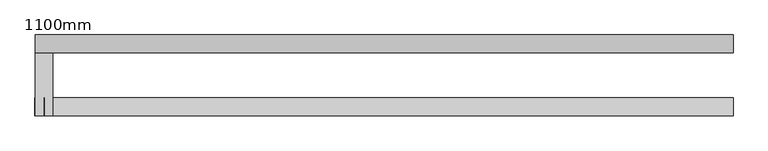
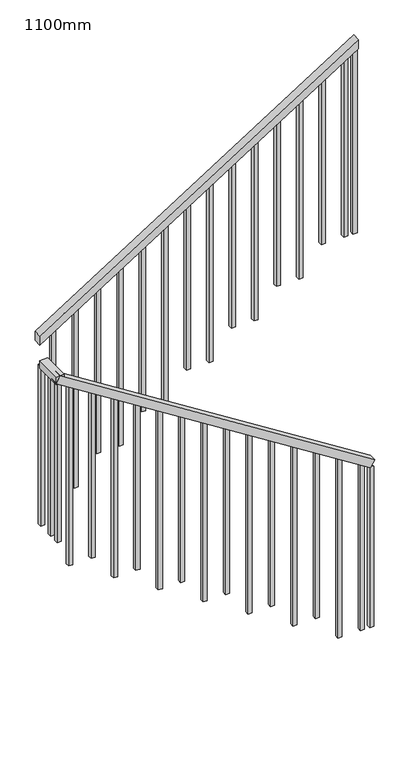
"""IFC4 building model written with IfcOpenShell, lengths in millimetres: railing geometry, 1100mm."""

from ifc_helpers import new_model, si_unit, frame, origin, place, context, project, spatial, polyline, outline, extrude, source, transform, mapped, element, save


def railing_1100mm_33f3b1c9(model_context):
    return source(origin(), model_context, "Body", "SweptSolid", [
        extrude(outline(polyline([(0.0, -50.0), (0.0, 0.0), (2314.699618, 0.0), (2314.699618, -50.0), (0.0, -50.0)])), frame((14312.383029, 8411.1365306, -1508.5881232), z_axis=(0.5348490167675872, 0.0, 0.8449476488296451), x_axis=(-0.8449476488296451, 0.0, 0.5348490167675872)), (0.0, 0.0, 1.0), 50.0),
        extrude(outline(polyline([(12407.9254798, 8411.1365306), (12357.9254798, 8411.1365306), (12357.9254798, 8589.7365306), (12407.9254798, 8589.7365306), (12407.9254798, 8411.1365306)])), frame((0.0, 0.0, -278.3259259), z_axis=(0.0, 0.0, 1.0), x_axis=(1.0, 0.0, 0.0)), (0.0, 0.0, 1.0), 50.0),
        extrude(outline(polyline([(-67.5447811, 12357.9254798), (-126.7200449, 12357.9254798), (1127.3728844, 14339.1254798), (1186.5481481, 14339.1254798), (-67.5447811, 12357.9254798)])), frame((0.0, 8589.7365306, 0.0), z_axis=(0.0, 1.0, 0.0), x_axis=(0.0, 0.0, 1.0)), (0.0, 0.0, 1.0), 50.0),
        extrude(outline(polyline([(1084.1676768, 14256.3754798), (-90.3111111, 14256.3754798), (-90.3111111, 14281.3754798), (1099.9925926, 14281.3754798), (1084.1676768, 14256.3754798)])), frame((0.0, 8602.2365306, 0.0), z_axis=(0.0, 1.0, 0.0), x_axis=(0.0, 0.0, 1.0)), (0.0, 0.0, 1.0), 25.0),
        extrude(outline(polyline([(995.6128221, 14116.6754798), (-90.3111111, 14116.6754798), (-90.3111111, 14141.6754798), (1011.3827664, 14141.6754798), (995.6128221, 14116.6754798)])), frame((0.0, 8602.2365306, 0.0), z_axis=(0.0, 1.0, 0.0), x_axis=(0.0, 0.0, 1.0)), (0.0, 0.0, 1.0), 25.0),
        extrude(outline(polyline([(907.3084175, 13976.9754798), (-267.1703704, 13976.9754798), (-267.1703704, 14001.9754798), (923.1333333, 14001.9754798), (907.3084175, 13976.9754798)])), frame((0.0, 8602.2365306, 0.0), z_axis=(0.0, 1.0, 0.0), x_axis=(0.0, 0.0, 1.0)), (0.0, 0.0, 1.0), 25.0),
        extrude(outline(polyline([(818.7535628, 13837.2754798), (-267.1703704, 13837.2754798), (-267.1703704, 13862.2754798), (834.5235072, 13862.2754798), (818.7535628, 13837.2754798)])), frame((0.0, 8602.2365306, 0.0), z_axis=(0.0, 1.0, 0.0), x_axis=(0.0, 0.0, 1.0)), (0.0, 0.0, 1.0), 25.0),
        extrude(outline(polyline([(730.4491582, 13697.5754798), (-444.0296296, 13697.5754798), (-444.0296296, 13722.5754798), (746.2740741, 13722.5754798), (730.4491582, 13697.5754798)])), frame((0.0, 8602.2365306, 0.0), z_axis=(0.0, 1.0, 0.0), x_axis=(0.0, 0.0, 1.0)), (0.0, 0.0, 1.0), 25.0),
        extrude(outline(polyline([(641.8943036, 13557.8754798), (-444.0296296, 13557.8754798), (-444.0296296, 13582.8754798), (657.6642479, 13582.8754798), (641.8943036, 13557.8754798)])), frame((0.0, 8602.2365306, 0.0), z_axis=(0.0, 1.0, 0.0), x_axis=(0.0, 0.0, 1.0)), (0.0, 0.0, 1.0), 25.0),
        extrude(outline(polyline([(553.589899, 13418.1754798), (-620.8888889, 13418.1754798), (-620.8888889, 13443.1754798), (569.4148148, 13443.1754798), (553.589899, 13418.1754798)])), frame((0.0, 8602.2365306, 0.0), z_axis=(0.0, 1.0, 0.0), x_axis=(0.0, 0.0, 1.0)), (0.0, 0.0, 1.0), 25.0),
        extrude(outline(polyline([(465.0350443, 13278.4754798), (-620.8888889, 13278.4754798), (-620.8888889, 13303.4754798), (480.8049887, 13303.4754798), (465.0350443, 13278.4754798)])), frame((0.0, 8602.2365306, 0.0), z_axis=(0.0, 1.0, 0.0), x_axis=(0.0, 0.0, 1.0)), (0.0, 0.0, 1.0), 25.0),
        extrude(outline(polyline([(376.7306397, 13138.7754798), (-797.7481481, 13138.7754798), (-797.7481481, 13163.7754798), (392.5555556, 13163.7754798), (376.7306397, 13138.7754798)])), frame((0.0, 8602.2365306, 0.0), z_axis=(0.0, 1.0, 0.0), x_axis=(0.0, 0.0, 1.0)), (0.0, 0.0, 1.0), 25.0),
        extrude(outline(polyline([(288.1757851, 12999.0754798), (-797.7481481, 12999.0754798), (-797.7481481, 13024.0754798), (303.9457294, 13024.0754798), (288.1757851, 12999.0754798)])), frame((0.0, 8602.2365306, 0.0), z_axis=(0.0, 1.0, 0.0), x_axis=(0.0, 0.0, 1.0)), (0.0, 0.0, 1.0), 25.0),
        extrude(outline(polyline([(199.8713805, 12859.3754798), (-974.6074074, 12859.3754798), (-974.6074074, 12884.3754798), (215.6962963, 12884.3754798), (199.8713805, 12859.3754798)])), frame((0.0, 8602.2365306, 0.0), z_axis=(0.0, 1.0, 0.0), x_axis=(0.0, 0.0, 1.0)), (0.0, 0.0, 1.0), 25.0),
        extrude(outline(polyline([(111.3165258, 12719.6754798), (-974.6074074, 12719.6754798), (-974.6074074, 12744.6754798), (127.0864701, 12744.6754798), (111.3165258, 12719.6754798)])), frame((0.0, 8602.2365306, 0.0), z_axis=(0.0, 1.0, 0.0), x_axis=(0.0, 0.0, 1.0)), (0.0, 0.0, 1.0), 25.0),
        extrude(outline(polyline([(23.0121212, 12579.9754798), (-1151.4666667, 12579.9754798), (-1151.4666667, 12604.9754798), (38.837037, 12604.9754798), (23.0121212, 12579.9754798)])), frame((0.0, 8602.2365306, 0.0), z_axis=(0.0, 1.0, 0.0), x_axis=(0.0, 0.0, 1.0)), (0.0, 0.0, 1.0), 25.0),
        extrude(outline(polyline([(-65.5427335, 12440.2754798), (-1151.4666667, 12440.2754798), (-1151.4666667, 12465.2754798), (-49.7727891, 12465.2754798), (-65.5427335, 12440.2754798)])), frame((0.0, 8602.2365306, 0.0), z_axis=(0.0, 1.0, 0.0), x_axis=(0.0, 0.0, 1.0)), (0.0, 0.0, 1.0), 25.0),
        extrude(outline(polyline([(12395.4254798, 8493.4865306), (12370.4254798, 8493.4865306), (12370.4254798, 8518.4865306), (12395.4254798, 8518.4865306), (12395.4254798, 8493.4865306)])), frame((0.0, 0.0, -1328.3259259), z_axis=(0.0, 0.0, 1.0), x_axis=(1.0, 0.0, 0.0)), (0.0, 0.0, 1.0), 1050.0),
        extrude(outline(polyline([(-1505.1851852, 12465.6754798), (-330.4531987, 12465.6754798), (-314.6282828, 12440.6754798), (-1505.1851852, 12440.6754798), (-1505.1851852, 12465.6754798)])), frame((0.0, 8423.6365306, 0.0), z_axis=(0.0, 1.0, 0.0), x_axis=(0.0, 0.0, 1.0)), (0.0, 0.0, 1.0), 25.0),
        extrude(outline(polyline([(-1505.1851852, 12605.3754798), (-419.0089329, 12605.3754798), (-403.2389885, 12580.3754798), (-1505.1851852, 12580.3754798), (-1505.1851852, 12605.3754798)])), frame((0.0, 8423.6365306, 0.0), z_axis=(0.0, 1.0, 0.0), x_axis=(0.0, 0.0, 1.0)), (0.0, 0.0, 1.0), 25.0),
        extrude(outline(polyline([(-1682.0444444, 12745.0754798), (-507.3124579, 12745.0754798), (-491.4875421, 12720.0754798), (-1682.0444444, 12720.0754798), (-1682.0444444, 12745.0754798)])), frame((0.0, 8423.6365306, 0.0), z_axis=(0.0, 1.0, 0.0), x_axis=(0.0, 0.0, 1.0)), (0.0, 0.0, 1.0), 25.0),
        extrude(outline(polyline([(-1682.0444444, 12884.7754798), (-595.8681921, 12884.7754798), (-580.0982478, 12859.7754798), (-1682.0444444, 12859.7754798), (-1682.0444444, 12884.7754798)])), frame((0.0, 8423.6365306, 0.0), z_axis=(0.0, 1.0, 0.0), x_axis=(0.0, 0.0, 1.0)), (0.0, 0.0, 1.0), 25.0),
        extrude(outline(polyline([(-1858.9037037, 13024.4754798), (-684.1717172, 13024.4754798), (-668.3468013, 12999.4754798), (-1858.9037037, 12999.4754798), (-1858.9037037, 13024.4754798)])), frame((0.0, 8423.6365306, 0.0), z_axis=(0.0, 1.0, 0.0), x_axis=(0.0, 0.0, 1.0)), (0.0, 0.0, 1.0), 25.0),
        extrude(outline(polyline([(-1858.9037037, 13164.1754798), (-772.7274514, 13164.1754798), (-756.957507, 13139.1754798), (-1858.9037037, 13139.1754798), (-1858.9037037, 13164.1754798)])), frame((0.0, 8423.6365306, 0.0), z_axis=(0.0, 1.0, 0.0), x_axis=(0.0, 0.0, 1.0)), (0.0, 0.0, 1.0), 25.0),
        extrude(outline(polyline([(-2035.762963, 13303.8754798), (-861.0309764, 13303.8754798), (-845.2060606, 13278.8754798), (-2035.762963, 13278.8754798), (-2035.762963, 13303.8754798)])), frame((0.0, 8423.6365306, 0.0), z_axis=(0.0, 1.0, 0.0), x_axis=(0.0, 0.0, 1.0)), (0.0, 0.0, 1.0), 25.0),
        extrude(outline(polyline([(-2035.762963, 13443.5754798), (-949.5867106, 13443.5754798), (-933.8167663, 13418.5754798), (-2035.762963, 13418.5754798), (-2035.762963, 13443.5754798)])), frame((0.0, 8423.6365306, 0.0), z_axis=(0.0, 1.0, 0.0), x_axis=(0.0, 0.0, 1.0)), (0.0, 0.0, 1.0), 25.0),
        extrude(outline(polyline([(-2212.6222222, 13583.2754798), (-1037.8902357, 13583.2754798), (-1022.0653199, 13558.2754798), (-2212.6222222, 13558.2754798), (-2212.6222222, 13583.2754798)])), frame((0.0, 8423.6365306, 0.0), z_axis=(0.0, 1.0, 0.0), x_axis=(0.0, 0.0, 1.0)), (0.0, 0.0, 1.0), 25.0),
        extrude(outline(polyline([(-2212.6222222, 13722.9754798), (-1126.4459699, 13722.9754798), (-1110.6760256, 13697.9754798), (-2212.6222222, 13697.9754798), (-2212.6222222, 13722.9754798)])), frame((0.0, 8423.6365306, 0.0), z_axis=(0.0, 1.0, 0.0), x_axis=(0.0, 0.0, 1.0)), (0.0, 0.0, 1.0), 25.0),
        extrude(outline(polyline([(-2389.4814815, 13862.6754798), (-1214.7494949, 13862.6754798), (-1198.9245791, 13837.6754798), (-2389.4814815, 13837.6754798), (-2389.4814815, 13862.6754798)])), frame((0.0, 8423.6365306, 0.0), z_axis=(0.0, 1.0, 0.0), x_axis=(0.0, 0.0, 1.0)), (0.0, 0.0, 1.0), 25.0),
        extrude(outline(polyline([(-2389.4814815, 14002.3754798), (-1303.3052292, 14002.3754798), (-1287.5352848, 13977.3754798), (-2389.4814815, 13977.3754798), (-2389.4814815, 14002.3754798)])), frame((0.0, 8423.6365306, 0.0), z_axis=(0.0, 1.0, 0.0), x_axis=(0.0, 0.0, 1.0)), (0.0, 0.0, 1.0), 25.0),
        extrude(outline(polyline([(-2566.3407407, 14142.0754798), (-1391.6087542, 14142.0754798), (-1375.7838384, 14117.0754798), (-2566.3407407, 14117.0754798), (-2566.3407407, 14142.0754798)])), frame((0.0, 8423.6365306, 0.0), z_axis=(0.0, 1.0, 0.0), x_axis=(0.0, 0.0, 1.0)), (0.0, 0.0, 1.0), 25.0),
        extrude(outline(polyline([(-2566.3407407, 14281.7754798), (-1480.1644884, 14281.7754798), (-1464.3945441, 14256.7754798), (-2566.3407407, 14256.7754798), (-2566.3407407, 14281.7754798)])), frame((0.0, 8423.6365306, 0.0), z_axis=(0.0, 1.0, 0.0), x_axis=(0.0, 0.0, 1.0)), (0.0, 0.0, 1.0), 25.0),
        extrude(outline(polyline([(12395.4254798, 8602.2365306), (12370.4254798, 8602.2365306), (12370.4254798, 8627.2365306), (12395.4254798, 8627.2365306), (12395.4254798, 8602.2365306)])), frame((0.0, 0.0, -1328.3259259), z_axis=(0.0, 0.0, 1.0), x_axis=(1.0, 0.0, 0.0)), (0.0, 0.0, 1.0), 1050.0),
        extrude(outline(polyline([(12395.4254798, 8448.6365306), (12395.4254798, 8423.6365306), (12370.4254798, 8423.6365306), (12370.4254798, 8448.6365306), (12395.4254798, 8448.6365306)])), frame((0.0, 0.0, -1328.3259259), z_axis=(0.0, 0.0, 1.0), x_axis=(1.0, 0.0, 0.0)), (0.0, 0.0, 1.0), 1050.0),
        extrude(outline(polyline([(1120.7232323, 14314.1254798), (-90.3111111, 14314.1254798), (-90.3111111, 14339.1254798), (1136.5481481, 14339.1254798), (1120.7232323, 14314.1254798)])), frame((0.0, 8602.2365306, 0.0), z_axis=(0.0, 1.0, 0.0), x_axis=(0.0, 0.0, 1.0)), (0.0, 0.0, 1.0), 25.0),
        extrude(outline(polyline([(-2566.3407407, 14339.1254798), (-1516.3407407, 14339.1254798), (-1500.5707964, 14314.1254798), (-2566.3407407, 14314.1254798), (-2566.3407407, 14339.1254798)])), frame((0.0, 8423.6365306, 0.0), z_axis=(0.0, 1.0, 0.0), x_axis=(0.0, 0.0, 1.0)), (0.0, 0.0, 1.0), 25.0),
    ])


if __name__ == "__main__":
    model = new_model("IFC4")
    model_context = context("Model", 3, world=origin())
    ifc_project = project(units=[si_unit("LENGTHUNIT", "METRE", prefix="MILLI")], contexts=[model_context])
    site = spatial("IfcSite", under=ifc_project)
    building = spatial("IfcBuilding", under=site)
    placement = place(None, origin())
    railing_1100mm_shape = railing_1100mm_33f3b1c9(model_context)
    element("IfcRailing", 1, ObjectType="1100mm", at=placement, inside=building, context=model_context, shape_type="MappedRepresentation", body=[
        mapped(railing_1100mm_shape, transform((0.0, 0.0, 0.0), x_axis=(1.0, 0.0, 0.0), y_axis=(0.0, 1.0, 0.0), z_axis=(0.0, 0.0, 1.0))),
    ])
    save(model, "model.ifc")
